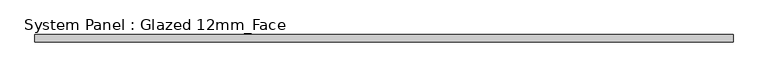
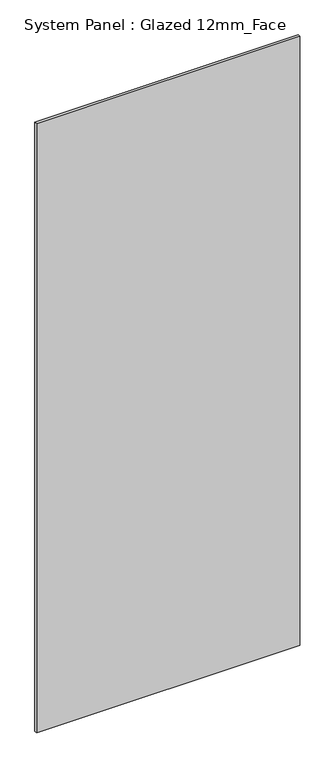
"""IFC4 building model written with IfcOpenShell, lengths in millimetres: plate geometry, System Panel : Glazed 12mm_Face."""

from ifc_helpers import new_model, si_unit, origin, origin_with_axes, place, context, project, spatial, polyline, outline, extrude, source, transform, mapped, element, save


def system_panel_glazed_12mm_face_11843d3f(model_context):
    return source(origin(), model_context, "Body", "SweptSolid", [
        extrude(outline(polyline([(571.9580839, 0.0), (-571.9580839, 0.0), (-571.9580839, 12.0), (571.9580839, 12.0), (571.9580839, 0.0)])), origin_with_axes(), (0.0, 0.0, 1.0), 2800.0),
    ])


if __name__ == "__main__":
    model = new_model("IFC4")
    model_context = context("Model", 3, world=origin())
    ifc_project = project(units=[si_unit("LENGTHUNIT", "METRE", prefix="MILLI")], contexts=[model_context])
    site = spatial("IfcSite", under=ifc_project)
    building = spatial("IfcBuilding", under=site)
    placement = place(None, origin())
    system_panel_glazed_12mm_face_shape = system_panel_glazed_12mm_face_11843d3f(model_context)
    element("IfcPlate", 1, ObjectType="System Panel : Glazed 12mm_Face", at=placement, inside=building, context=model_context, shape_type="MappedRepresentation", body=[
        mapped(system_panel_glazed_12mm_face_shape, transform((0.0, 0.0, 0.0), x_axis=(1.0, 0.0, 0.0), y_axis=(0.0, 1.0, 0.0), z_axis=(0.0, 0.0, 1.0))),
    ])
    save(model, "model.ifc")
